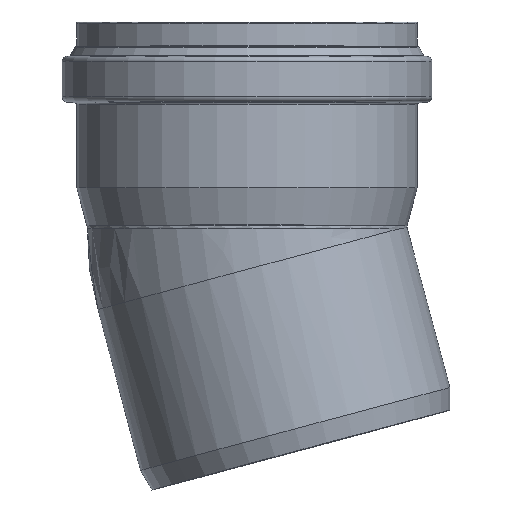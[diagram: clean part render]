
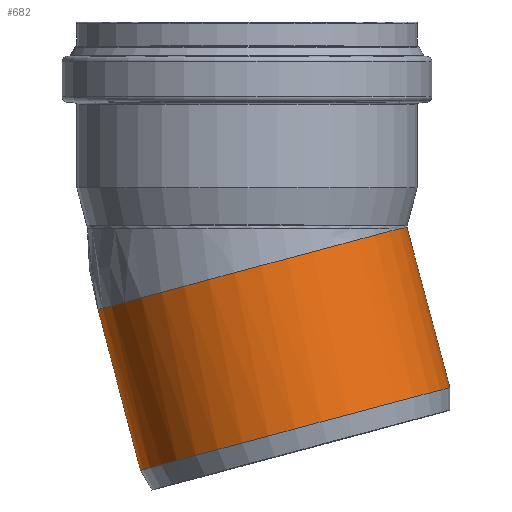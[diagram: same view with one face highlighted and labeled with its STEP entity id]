
A CAD part, top view. The second image highlights one B-rep face of the part: STEP entity #682.
In plain terms, the highlighted cylindrical face has radius 125.15 mm (diameter 250.3 mm), a full revolution.
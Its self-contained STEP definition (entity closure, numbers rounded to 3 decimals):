
#32=LINE('',#1199,#54);
#54=VECTOR('',#894,125.15);
#76=ELLIPSE('',#752,126.23,125.15);
#77=ELLIPSE('',#753,126.23,125.15);
#78=CYLINDRICAL_SURFACE('',#751,125.15);
#92=FACE_OUTER_BOUND('',#134,.T.);
#134=EDGE_LOOP('',(#450,#451,#452,#453,#454,#455));
#180=CIRCLE('',#749,125.15);
#182=CIRCLE('',#754,125.15);
#265=VERTEX_POINT('',#1190);
#266=VERTEX_POINT('',#1191);
#267=VERTEX_POINT('',#1195);
#268=VERTEX_POINT('',#1198);
#337=EDGE_CURVE('',#265,#266,#180,.T.);
#339=EDGE_CURVE('',#266,#267,#76,.T.);
#340=EDGE_CURVE('',#267,#265,#77,.T.);
#341=EDGE_CURVE('',#267,#268,#32,.T.);
#342=EDGE_CURVE('',#268,#268,#182,.T.);
#450=ORIENTED_EDGE('',*,*,#339,.F.);
#451=ORIENTED_EDGE('',*,*,#337,.F.);
#452=ORIENTED_EDGE('',*,*,#340,.F.);
#453=ORIENTED_EDGE('',*,*,#341,.T.);
#454=ORIENTED_EDGE('',*,*,#342,.T.);
#455=ORIENTED_EDGE('',*,*,#341,.F.);
#682=ADVANCED_FACE('',(#92),#78,.T.);
#749=AXIS2_PLACEMENT_3D('',#1192,#884,#885);
#751=AXIS2_PLACEMENT_3D('',#1194,#888,#889);
#752=AXIS2_PLACEMENT_3D('',#1196,#890,#891);
#753=AXIS2_PLACEMENT_3D('',#1197,#892,#893);
#754=AXIS2_PLACEMENT_3D('',#1200,#895,#896);
#884=DIRECTION('center_axis',(-0.259,0.966,0.));
#885=DIRECTION('ref_axis',(0.966,0.259,0.));
#888=DIRECTION('center_axis',(-0.259,0.966,0.));
#889=DIRECTION('ref_axis',(-0.966,-0.259,0.));
#890=DIRECTION('center_axis',(-0.131,0.991,0.));
#891=DIRECTION('ref_axis',(-0.991,-0.131,0.));
#892=DIRECTION('center_axis',(-0.131,0.991,0.));
#893=DIRECTION('ref_axis',(-0.991,-0.131,0.));
#894=DIRECTION('',(0.259,-0.966,0.));
#895=DIRECTION('center_axis',(-0.259,0.966,0.));
#896=DIRECTION('ref_axis',(0.966,0.259,0.));
#1190=CARTESIAN_POINT('',(119.,15.667,-38.749));
#1191=CARTESIAN_POINT('',(119.,15.667,38.749));
#1192=CARTESIAN_POINT('Origin',(4.055,-15.133,0.));
#1194=CARTESIAN_POINT('Origin',(20.893,-77.973,0.));
#1195=CARTESIAN_POINT('',(125.15,16.476,0.));
#1196=CARTESIAN_POINT('Origin',(0.,0.,
0.));
#1197=CARTESIAN_POINT('Origin',(0.,0.,
0.));
#1198=CARTESIAN_POINT('',(158.616,-108.422,0.));
#1199=CARTESIAN_POINT('',(141.778,-45.582,0.));
#1200=CARTESIAN_POINT('Origin',(37.731,-140.813,0.));
